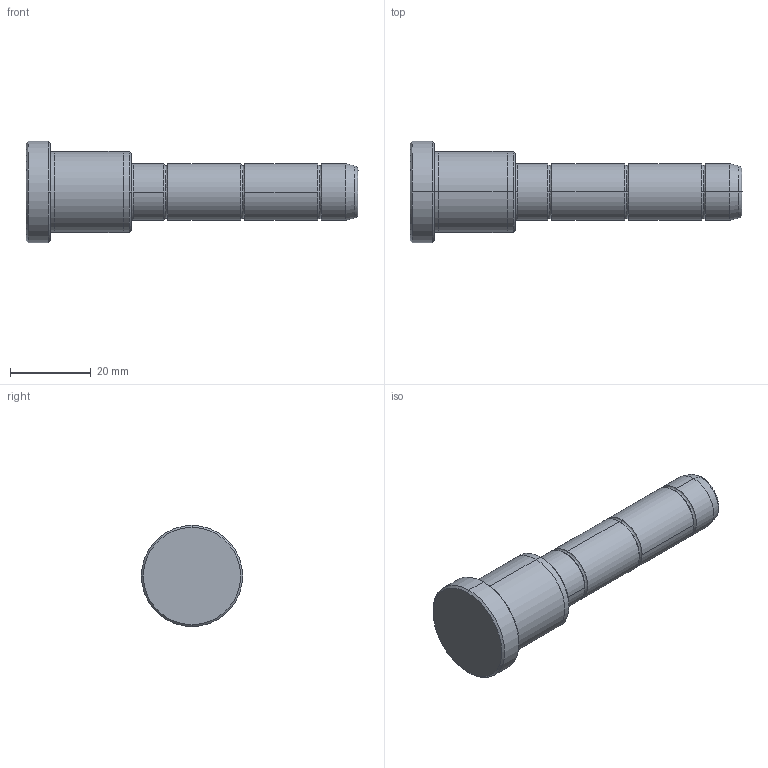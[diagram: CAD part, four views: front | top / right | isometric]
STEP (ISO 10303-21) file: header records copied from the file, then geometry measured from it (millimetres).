
FILE_DESCRIPTION (( 'STEP AP214' ), '1' );
FILE_NAME ('D02_14x26x56.step', '2011-12-25T21:15:42', ( 'Dell' ), ( '' ), 'SwSTEP 2.0', 'SolidWorks 2010', '' );
FILE_SCHEMA (( 'AUTOMOTIVE_DESIGN' ));
Length unit declared in the file: millimetre
Products named in the file (1): D02_14x26x56
Bounding box: 82 x 25 x 25 mm (x, y, z)
Volume: 17729.7 mm3; surface area: 5120.5 mm2
Topology: 1 solids, 1 shells, 48 faces, 106 edges, 64 vertices
Faces by surface type: cylinder 16, bspline 16, cone 10, plane 6
Entity records: 1538 total; most frequent: CARTESIAN_POINT 521, ORIENTED_EDGE 212, DIRECTION 210, EDGE_CURVE 106, AXIS2_PLACEMENT_3D 93, VERTEX_POINT 64, CIRCLE 60, EDGE_LOOP 52
